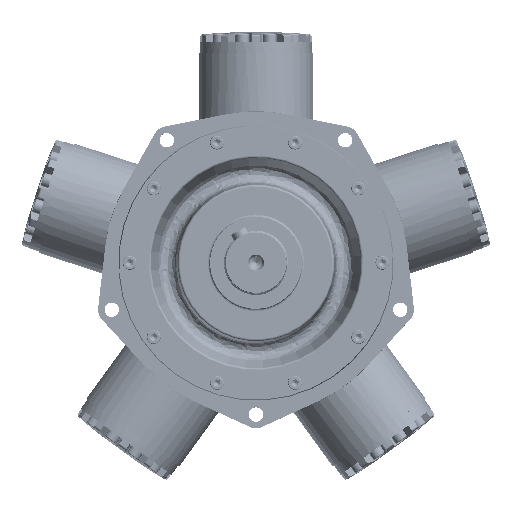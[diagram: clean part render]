
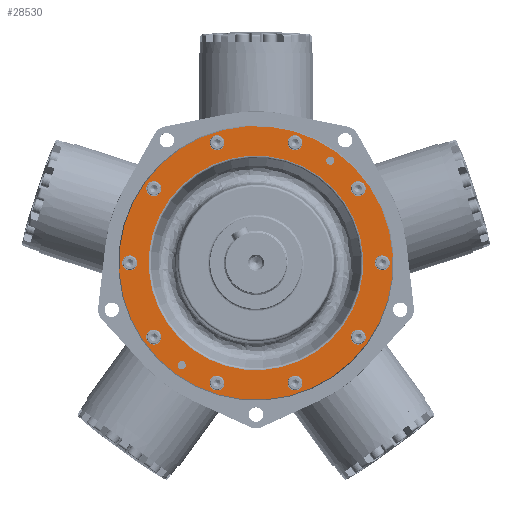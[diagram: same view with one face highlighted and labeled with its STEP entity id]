
A CAD part, top view. The second image highlights one B-rep face of the part: STEP entity #28530.
In plain terms, the highlighted planar face has unit normal (0, 0, 1) as drawn and (1, 0, 0) by its records, which use the part's own axes.
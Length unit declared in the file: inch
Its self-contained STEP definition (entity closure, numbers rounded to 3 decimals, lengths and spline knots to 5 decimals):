
#27283=CARTESIAN_POINT('',(-0.37,6.29973,-2.45315));
#27284=VERTEX_POINT('',#27283);
#27285=CARTESIAN_POINT('',(-0.37,6.53851,-2.12449));
#27286=DIRECTION('',(-1.,0.0,0.0));
#27287=DIRECTION('',(0.0,-0.588,-0.809));
#27288=AXIS2_PLACEMENT_3D('',#27285,#27286,#27287);
#27289=CIRCLE('',#27288,0.40625);
#27290=EDGE_CURVE('',#27284,#27284,#27289,.T.);
#27393=CARTESIAN_POINT('',(-0.37,3.65466,-5.68753));
#27394=VERTEX_POINT('',#27393);
#27395=CARTESIAN_POINT('',(-0.37,4.04102,-5.56199));
#27396=DIRECTION('',(-1.0,0.0,0.0));
#27397=DIRECTION('',(0.0,-0.951,-0.309));
#27398=AXIS2_PLACEMENT_3D('',#27395,#27396,#27397);
#27399=CIRCLE('',#27398,0.40625);
#27400=EDGE_CURVE('',#27394,#27394,#27399,.T.);
#27503=CARTESIAN_POINT('',(-0.37,-0.38637,-6.74946));
#27504=VERTEX_POINT('',#27503);
#27505=CARTESIAN_POINT('',(-0.37,0.,-6.875));
#27506=DIRECTION('',(-1.0,0.0,0.0));
#27507=DIRECTION('',(0.0,-0.951,0.309));
#27508=AXIS2_PLACEMENT_3D('',#27505,#27506,#27507);
#27509=CIRCLE('',#27508,0.40625);
#27510=EDGE_CURVE('',#27504,#27504,#27509,.T.);
#27613=CARTESIAN_POINT('',(-0.37,-4.27981,-5.23333));
#27614=VERTEX_POINT('',#27613);
#27615=CARTESIAN_POINT('',(-0.37,-4.04102,-5.56199));
#27616=DIRECTION('',(-1.0,0.0,0.0));
#27617=DIRECTION('',(0.0,-0.588,0.809));
#27618=AXIS2_PLACEMENT_3D('',#27615,#27616,#27617);
#27619=CIRCLE('',#27618,0.40625);
#27620=EDGE_CURVE('',#27614,#27614,#27619,.T.);
#27723=CARTESIAN_POINT('',(-0.37,-6.53851,-1.71824));
#27724=VERTEX_POINT('',#27723);
#27725=CARTESIAN_POINT('',(-0.37,-6.53851,-2.12449));
#27726=DIRECTION('',(-1.0,0.0,0.0));
#27727=DIRECTION('',(0.0,0.0,1.0));
#27728=AXIS2_PLACEMENT_3D('',#27725,#27726,#27727);
#27729=CIRCLE('',#27728,0.40625);
#27730=EDGE_CURVE('',#27724,#27724,#27729,.T.);
#27833=CARTESIAN_POINT('',(-0.37,-6.29973,2.45315));
#27834=VERTEX_POINT('',#27833);
#27835=CARTESIAN_POINT('',(-0.37,-6.53851,2.12449));
#27836=DIRECTION('',(-1.0,0.0,0.0));
#27837=DIRECTION('',(0.0,0.588,0.809));
#27838=AXIS2_PLACEMENT_3D('',#27835,#27836,#27837);
#27839=CIRCLE('',#27838,0.40625);
#27840=EDGE_CURVE('',#27834,#27834,#27839,.T.);
#27943=CARTESIAN_POINT('',(-0.37,-3.65466,5.68753));
#27944=VERTEX_POINT('',#27943);
#27945=CARTESIAN_POINT('',(-0.37,-4.04102,5.56199));
#27946=DIRECTION('',(-1.0,0.0,0.0));
#27947=DIRECTION('',(0.0,0.951,0.309));
#27948=AXIS2_PLACEMENT_3D('',#27945,#27946,#27947);
#27949=CIRCLE('',#27948,0.40625);
#27950=EDGE_CURVE('',#27944,#27944,#27949,.T.);
#28053=CARTESIAN_POINT('',(-0.37,0.38637,6.74946));
#28054=VERTEX_POINT('',#28053);
#28055=CARTESIAN_POINT('',(-0.37,0.,6.875));
#28056=DIRECTION('',(-1.,0.0,0.0));
#28057=DIRECTION('',(0.0,0.951,-0.309));
#28058=AXIS2_PLACEMENT_3D('',#28055,#28056,#28057);
#28059=CIRCLE('',#28058,0.40625);
#28060=EDGE_CURVE('',#28054,#28054,#28059,.T.);
#28163=CARTESIAN_POINT('',(-0.37,4.27981,5.23333));
#28164=VERTEX_POINT('',#28163);
#28165=CARTESIAN_POINT('',(-0.37,4.04102,5.56199));
#28166=DIRECTION('',(-1.0,0.0,0.0));
#28167=DIRECTION('',(0.0,0.588,-0.809));
#28168=AXIS2_PLACEMENT_3D('',#28165,#28166,#28167);
#28169=CIRCLE('',#28168,0.40625);
#28170=EDGE_CURVE('',#28164,#28164,#28169,.T.);
#28273=CARTESIAN_POINT('',(-0.37,6.53851,1.71824));
#28274=VERTEX_POINT('',#28273);
#28275=CARTESIAN_POINT('',(-0.37,6.53851,2.12449));
#28276=DIRECTION('',(-1.0,0.0,0.0));
#28277=DIRECTION('',(0.0,0.0,-1.0));
#28278=AXIS2_PLACEMENT_3D('',#28275,#28276,#28277);
#28279=CIRCLE('',#28278,0.40625);
#28280=EDGE_CURVE('',#28274,#28274,#28279,.T.);
#28366=CARTESIAN_POINT('',(-0.37,-6.875,0.223));
#28367=VERTEX_POINT('',#28366);
#28368=CARTESIAN_POINT('',(-0.37,-6.875,0.));
#28369=DIRECTION('',(-1.0,0.0,0.0));
#28370=DIRECTION('',(0.0,0.0,1.0));
#28371=AXIS2_PLACEMENT_3D('',#28368,#28369,#28370);
#28372=CIRCLE('',#28371,0.223);
#28373=EDGE_CURVE('',#28367,#28367,#28372,.T.);
#28415=CARTESIAN_POINT('',(-0.37,6.875,-0.223));
#28416=VERTEX_POINT('',#28415);
#28417=CARTESIAN_POINT('',(-0.37,6.875,0.0));
#28418=DIRECTION('',(-1.0,0.0,0.0));
#28419=DIRECTION('',(0.0,0.0,-1.0));
#28420=AXIS2_PLACEMENT_3D('',#28417,#28418,#28419);
#28421=CIRCLE('',#28420,0.223);
#28422=EDGE_CURVE('',#28416,#28416,#28421,.T.);
#28443=CARTESIAN_POINT('',(-0.37,-7.44788,0.));
#28444=VERTEX_POINT('',#28443);
#28445=CARTESIAN_POINT('',(-0.37,0.0,0.0));
#28446=DIRECTION('',(-1.0,0.0,0.0));
#28447=DIRECTION('',(0.0,1.0,0.0));
#28448=AXIS2_PLACEMENT_3D('',#28445,#28446,#28447);
#28449=CIRCLE('',#28448,7.44788);
#28450=EDGE_CURVE('',#28444,#28444,#28449,.T.);
#28475=CARTESIAN_POINT('',(-0.37,6.6875,0.0));
#28476=DIRECTION('',(1.0,0.0,0.0));
#28477=DIRECTION('',(0.0,0.0,-1.0));
#28478=AXIS2_PLACEMENT_3D('',#28475,#28476,#28477);
#28479=PLANE('',#28478);
#28480=ORIENTED_EDGE('',*,*,#28450,.F.);
#28481=EDGE_LOOP('',(#28480));
#28482=FACE_OUTER_BOUND('',#28481,.T.);
#28483=ORIENTED_EDGE('',*,*,#27290,.T.);
#28484=EDGE_LOOP('',(#28483));
#28485=FACE_BOUND('',#28484,.T.);
#28486=ORIENTED_EDGE('',*,*,#27400,.T.);
#28487=EDGE_LOOP('',(#28486));
#28488=FACE_BOUND('',#28487,.T.);
#28489=ORIENTED_EDGE('',*,*,#27510,.T.);
#28490=EDGE_LOOP('',(#28489));
#28491=FACE_BOUND('',#28490,.T.);
#28492=ORIENTED_EDGE('',*,*,#27620,.T.);
#28493=EDGE_LOOP('',(#28492));
#28494=FACE_BOUND('',#28493,.T.);
#28495=ORIENTED_EDGE('',*,*,#27730,.T.);
#28496=EDGE_LOOP('',(#28495));
#28497=FACE_BOUND('',#28496,.T.);
#28498=ORIENTED_EDGE('',*,*,#27840,.T.);
#28499=EDGE_LOOP('',(#28498));
#28500=FACE_BOUND('',#28499,.T.);
#28501=ORIENTED_EDGE('',*,*,#27950,.T.);
#28502=EDGE_LOOP('',(#28501));
#28503=FACE_BOUND('',#28502,.T.);
#28504=ORIENTED_EDGE('',*,*,#28060,.T.);
#28505=EDGE_LOOP('',(#28504));
#28506=FACE_BOUND('',#28505,.T.);
#28507=ORIENTED_EDGE('',*,*,#28170,.T.);
#28508=EDGE_LOOP('',(#28507));
#28509=FACE_BOUND('',#28508,.T.);
#28510=ORIENTED_EDGE('',*,*,#28280,.T.);
#28511=EDGE_LOOP('',(#28510));
#28512=FACE_BOUND('',#28511,.T.);
#28513=ORIENTED_EDGE('',*,*,#28373,.T.);
#28514=EDGE_LOOP('',(#28513));
#28515=FACE_BOUND('',#28514,.T.);
#28516=ORIENTED_EDGE('',*,*,#28422,.T.);
#28517=EDGE_LOOP('',(#28516));
#28518=FACE_BOUND('',#28517,.T.);
#28519=CARTESIAN_POINT('',(-0.37,5.83753,0.0));
#28520=VERTEX_POINT('',#28519);
#28521=CARTESIAN_POINT('',(-0.37,0.0,0.0));
#28522=DIRECTION('',(1.0,0.0,0.0));
#28523=DIRECTION('',(0.0,-1.0,0.0));
#28524=AXIS2_PLACEMENT_3D('',#28521,#28522,#28523);
#28525=CIRCLE('',#28524,5.83753);
#28526=EDGE_CURVE('',#28520,#28520,#28525,.T.);
#28527=ORIENTED_EDGE('',*,*,#28526,.F.);
#28528=EDGE_LOOP('',(#28527));
#28529=FACE_BOUND('',#28528,.T.);
#28530=ADVANCED_FACE('',(#28482,#28485,#28488,#28491,#28494,#28497,#28500,#28503,#28506,#28509,#28512,#28515,#28518,#28529),#28479,.T.);
